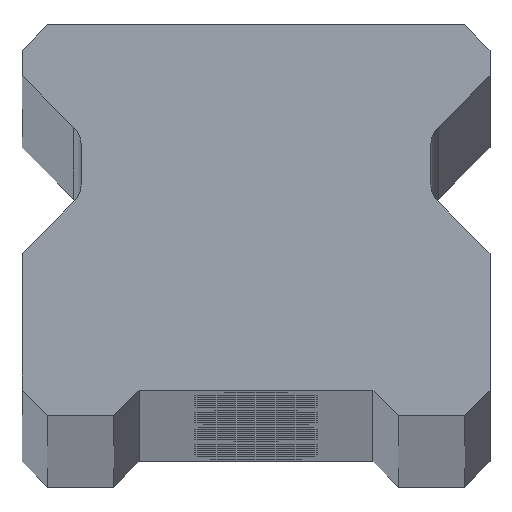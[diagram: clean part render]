
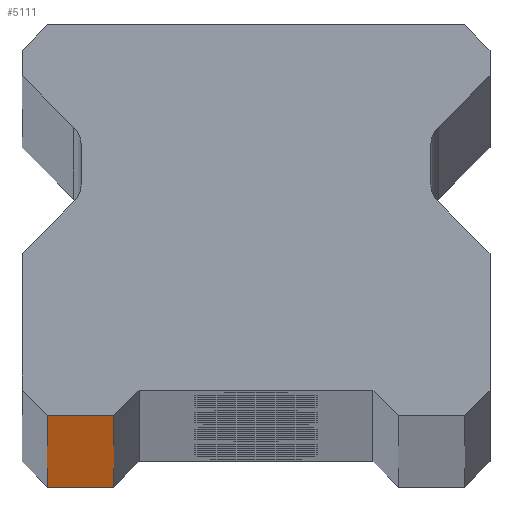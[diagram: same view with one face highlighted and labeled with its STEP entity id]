
A CAD part, top view. The second image highlights one B-rep face of the part: STEP entity #5111.
In plain terms, the highlighted planar face has unit normal (0, -1, 0).
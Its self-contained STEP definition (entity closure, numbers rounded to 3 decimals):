
#74 = CARTESIAN_POINT ( 'NONE',  ( -10.25, 0., 1010. ) ) ;
#228 = ORIENTED_EDGE ( 'NONE', *, *, #4167, .T. ) ;
#533 = DIRECTION ( 'NONE',  ( 1., 0., 0. ) ) ;
#633 = DIRECTION ( 'NONE',  ( -1., 0., 0. ) ) ;
#696 = EDGE_LOOP ( 'NONE', ( #1107, #730, #3742, #228 ) ) ;
#730 = ORIENTED_EDGE ( 'NONE', *, *, #2896, .T. ) ;
#764 = CARTESIAN_POINT ( 'NONE',  ( 11.5, 0., -1010. ) ) ;
#890 = VERTEX_POINT ( 'NONE', #6360 ) ;
#1014 = CARTESIAN_POINT ( 'NONE',  ( 11.5, 0., 1010. ) ) ;
#1107 = ORIENTED_EDGE ( 'NONE', *, *, #1856, .T. ) ;
#1245 = DIRECTION ( 'NONE',  ( 0., 1., 0. ) ) ;
#1401 = CARTESIAN_POINT ( 'NONE',  ( -10.25, 0., 1010. ) ) ;
#1405 = FACE_OUTER_BOUND ( 'NONE', #696, .T. ) ;
#1502 = LINE ( 'NONE', #1401, #4554 ) ;
#1503 = VERTEX_POINT ( 'NONE', #2157 ) ;
#1856 = EDGE_CURVE ( 'NONE', #1503, #890, #5011, .T. ) ;
#2088 = DIRECTION ( 'NONE',  ( 0., 0., 1. ) ) ;
#2157 = CARTESIAN_POINT ( 'NONE',  ( -10.25, 0., -1010. ) ) ;
#2446 = DIRECTION ( 'NONE',  ( 0., 0., -1. ) ) ;
#2570 = LINE ( 'NONE', #2654, #4139 ) ;
#2654 = CARTESIAN_POINT ( 'NONE',  ( -7., 0., -1010. ) ) ;
#2896 = EDGE_CURVE ( 'NONE', #890, #6432, #2570, .T. ) ;
#3742 = ORIENTED_EDGE ( 'NONE', *, *, #6485, .F. ) ;
#3833 = VECTOR ( 'NONE', #5977, 1000. ) ;
#3918 = VERTEX_POINT ( 'NONE', #74 ) ;
#3966 = CARTESIAN_POINT ( 'NONE',  ( 11.5, 0., 1010. ) ) ;
#3967 = AXIS2_PLACEMENT_3D ( 'NONE', #3966, #1245, #633 ) ;
#4139 = VECTOR ( 'NONE', #2088, 1000. ) ;
#4167 = EDGE_CURVE ( 'NONE', #3918, #1503, #1502, .T. ) ;
#4554 = VECTOR ( 'NONE', #2446, 1000. ) ;
#4655 = CARTESIAN_POINT ( 'NONE',  ( -7., 0., 1010. ) ) ;
#5011 = LINE ( 'NONE', #764, #6972 ) ;
#5111 = ADVANCED_FACE ( 'NONE', ( #1405 ), #6710, .F. ) ;
#5977 = DIRECTION ( 'NONE',  ( 1., 0., 0. ) ) ;
#6360 = CARTESIAN_POINT ( 'NONE',  ( -7., 0., -1010. ) ) ;
#6396 = LINE ( 'NONE', #1014, #3833 ) ;
#6432 = VERTEX_POINT ( 'NONE', #4655 ) ;
#6485 = EDGE_CURVE ( 'NONE', #3918, #6432, #6396, .T. ) ;
#6710 = PLANE ( 'NONE',  #3967 ) ;
#6972 = VECTOR ( 'NONE', #533, 1000. ) ;
